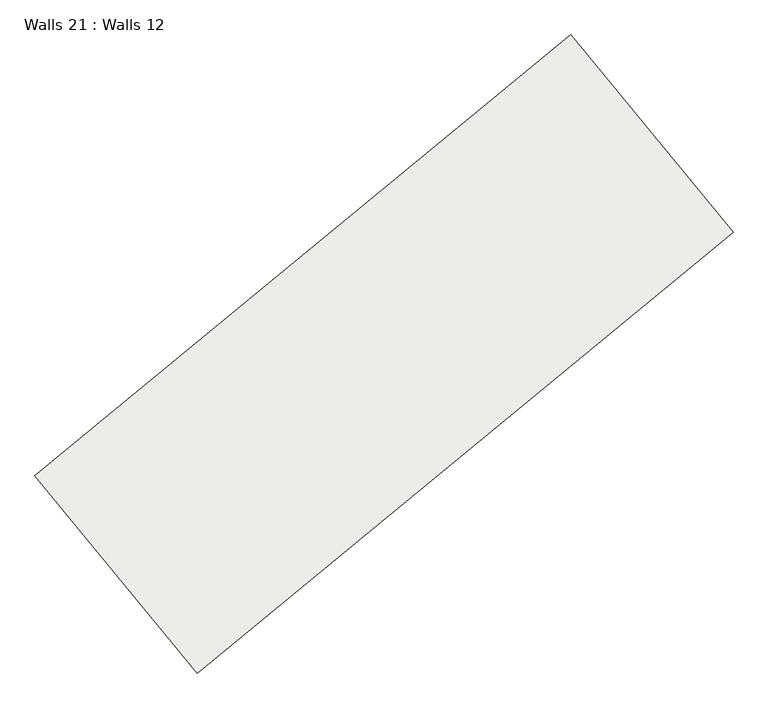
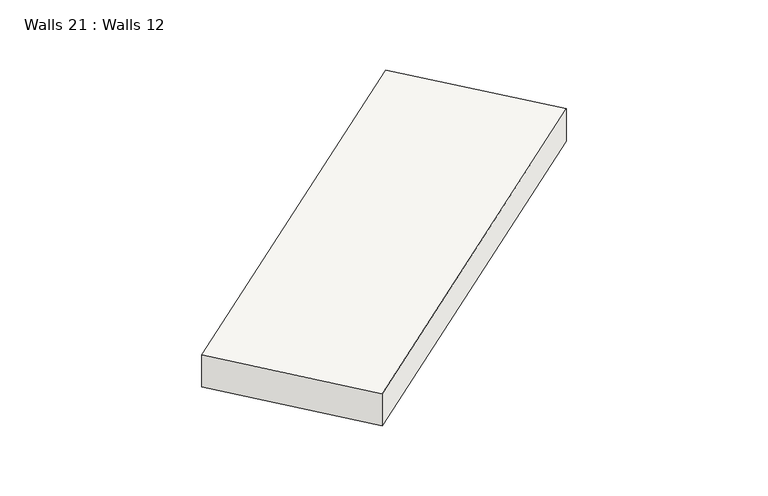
"""IFC4 building model written with IfcOpenShell, lengths in millimetres: slab geometry, Walls 21 : Walls 12."""

from ifc_helpers import new_model, si_unit, frame, origin, place, context, project, spatial, polyline, outline, extrude, source, transform, mapped, element, save


def walls_21_walls_12_a36823c6(model_context):
    return source(origin(), model_context, "Body", "SweptSolid", [
        extrude(outline(polyline([(-325.0, 0.0), (325.0, 0.0), (255.0, -8699.999999), (-395.0, -8699.999999), (-325.0, 0.0)])), frame((-264089.877625, -424457.606929, 634725.0), z_axis=(-0.6353361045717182, 0.7722357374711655, 0.0), x_axis=(0.0, 0.0, 1.0)), (0.0, 0.0, 1.0), 3200.0),
    ])


if __name__ == "__main__":
    model = new_model("IFC4")
    model_context = context("Model", 3, world=origin())
    ifc_project = project(units=[si_unit("LENGTHUNIT", "METRE", prefix="MILLI")], contexts=[model_context])
    site = spatial("IfcSite", under=ifc_project)
    building = spatial("IfcBuilding", under=site)
    placement = place(None, origin())
    walls_21_walls_12_shape = walls_21_walls_12_a36823c6(model_context)
    element("IfcSlab", 1, ObjectType="Walls 21 : Walls 12", at=placement, inside=building, context=model_context, shape_type="MappedRepresentation", body=[
        mapped(walls_21_walls_12_shape, transform((0.0, 0.0, 0.0), x_axis=(1.0, 0.0, 0.0), y_axis=(0.0, 1.0, 0.0), z_axis=(0.0, 0.0, 1.0))),
    ])
    save(model, "model.ifc")
